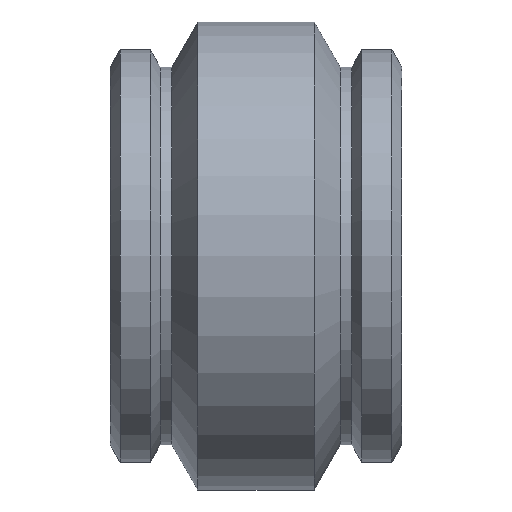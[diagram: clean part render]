
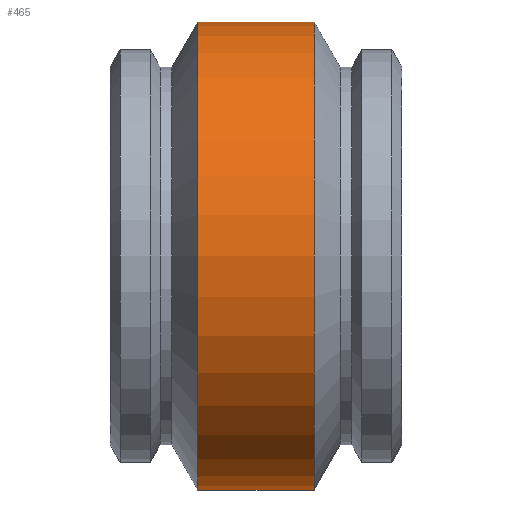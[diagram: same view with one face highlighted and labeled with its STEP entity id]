
A CAD part, front view. The second image highlights one B-rep face of the part: STEP entity #465.
In plain terms, the highlighted cylindrical face has radius 237.49 mm (diameter 474.98 mm), a full revolution.
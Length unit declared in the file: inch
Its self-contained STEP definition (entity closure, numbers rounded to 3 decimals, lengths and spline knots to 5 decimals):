
#51=CIRCLE('',#533,9.35);
#52=CIRCLE('',#534,9.35);
#53=CIRCLE('',#536,9.35);
#54=CIRCLE('',#537,9.35);
#74=CYLINDRICAL_SURFACE('',#535,9.35);
#105=FACE_OUTER_BOUND('',#139,.T.);
#139=EDGE_LOOP('',(#399,#400,#401,#402,#403,#404));
#163=LINE('',#1204,#183);
#183=VECTOR('',#661,9.35);
#231=VERTEX_POINT('',#1194);
#232=VERTEX_POINT('',#1195);
#233=VERTEX_POINT('',#1200);
#234=VERTEX_POINT('',#1201);
#290=EDGE_CURVE('',#231,#232,#51,.T.);
#291=EDGE_CURVE('',#232,#231,#52,.T.);
#293=EDGE_CURVE('',#233,#234,#53,.T.);
#294=EDGE_CURVE('',#234,#233,#54,.T.);
#295=EDGE_CURVE('',#234,#232,#163,.T.);
#399=ORIENTED_EDGE('',*,*,#293,.F.);
#400=ORIENTED_EDGE('',*,*,#294,.F.);
#401=ORIENTED_EDGE('',*,*,#295,.T.);
#402=ORIENTED_EDGE('',*,*,#291,.T.);
#403=ORIENTED_EDGE('',*,*,#290,.T.);
#404=ORIENTED_EDGE('',*,*,#295,.F.);
#465=ADVANCED_FACE('',(#105),#74,.T.);
#533=AXIS2_PLACEMENT_3D('',#1196,#650,#651);
#534=AXIS2_PLACEMENT_3D('',#1197,#652,#653);
#535=AXIS2_PLACEMENT_3D('',#1199,#655,#656);
#536=AXIS2_PLACEMENT_3D('',#1202,#657,#658);
#537=AXIS2_PLACEMENT_3D('',#1203,#659,#660);
#650=DIRECTION('center_axis',(1.,0.,0.));
#651=DIRECTION('ref_axis',(0.,0.,-1.));
#652=DIRECTION('center_axis',(1.,0.,0.));
#653=DIRECTION('ref_axis',(0.,0.,-1.));
#655=DIRECTION('center_axis',(1.,0.,0.));
#656=DIRECTION('ref_axis',(0.,1.,0.));
#657=DIRECTION('center_axis',(1.,0.,0.));
#658=DIRECTION('ref_axis',(0.,0.,-1.));
#659=DIRECTION('center_axis',(1.,0.,0.));
#660=DIRECTION('ref_axis',(0.,0.,-1.));
#661=DIRECTION('',(-1.,0.,0.));
#1194=CARTESIAN_POINT('',(-2.33,9.35,0.));
#1195=CARTESIAN_POINT('',(-2.33,-9.35,0.));
#1196=CARTESIAN_POINT('Origin',(-2.33,0.,0.));
#1197=CARTESIAN_POINT('Origin',(-2.33,0.,0.));
#1199=CARTESIAN_POINT('Origin',(0.,0.,0.));
#1200=CARTESIAN_POINT('',(2.33,9.35,0.));
#1201=CARTESIAN_POINT('',(2.33,-9.35,0.));
#1202=CARTESIAN_POINT('Origin',(2.33,0.,0.));
#1203=CARTESIAN_POINT('Origin',(2.33,0.,0.));
#1204=CARTESIAN_POINT('',(0.,-9.35,0.));
